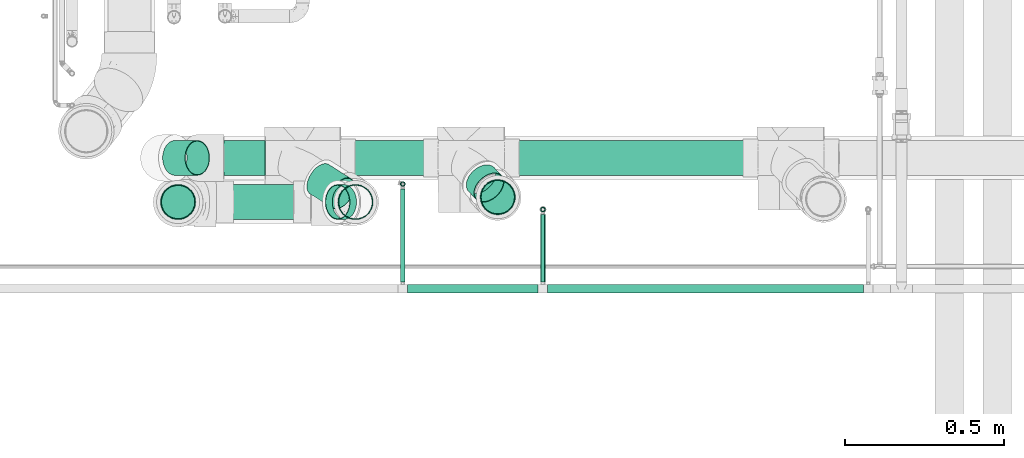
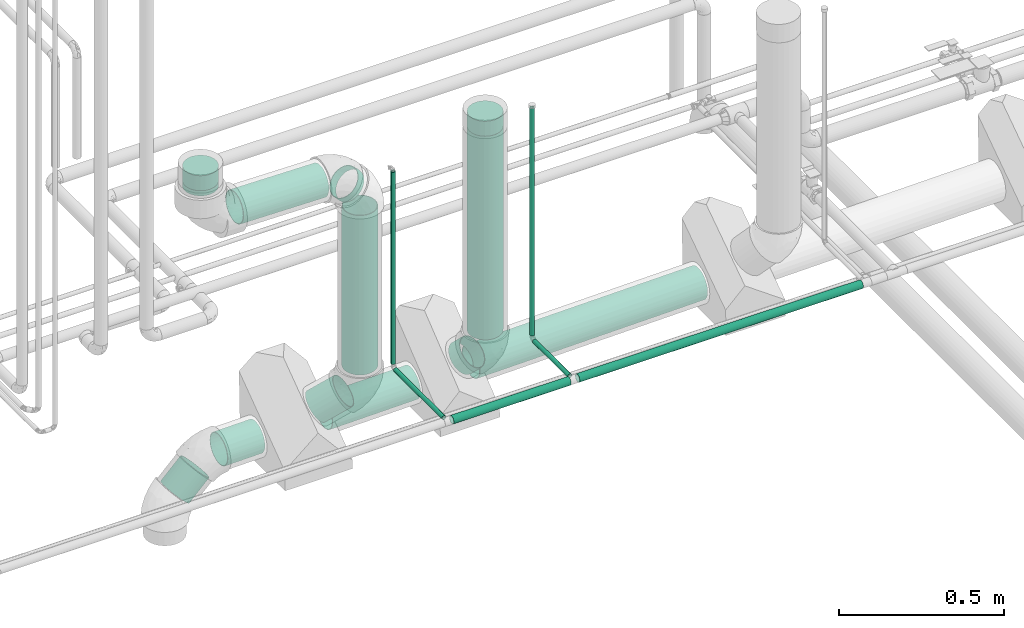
# One storey, part 56 of 156: 17 flow segments, 2 flow fittings.
"""IFC2X3 building model written with IfcOpenShell, lengths in millimetres."""

from ifc_helpers import new_model, entity, si_unit, converted_unit, derived_unit, direction, frame, origin_with_axes, origin_2d_with_axis, place, context, subcontext, project, spatial, hollow_circle, extrude, open_shell, surface_model, source, transform, mapped, type_object, element, save


model = new_model("IFC2X3")

# Units and contexts
model_context = context("Model", 3, precision=0.01, world=frame((0.0, 4.29681676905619e-09, 0.0)), true_north=direction((4.01073788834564e-13, 1.0)))
plan_context = context("Plan", 3, precision=0.01, world=frame((0.0, 4.29681676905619e-09, 0.0)), true_north=direction((4.01073788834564e-13, 1.0)))
body_context = subcontext(model_context, "Body", "Model", "MODEL_VIEW")
ifc_project = project(units=[converted_unit("PLANEANGLEUNIT", "DEGREE", entity("IfcPositiveLengthMeasure", 0.0174532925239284), si_unit("PLANEANGLEUNIT", "RADIAN"), dimensions=[0, 0, 0, 0, 0, 0, 0]), si_unit("AREAUNIT", "SQUARE_METRE"), si_unit("LENGTHUNIT", "METRE", prefix="MILLI"), si_unit("MASSUNIT", "GRAM", prefix="KILO"), si_unit("POWERUNIT", "WATT"), si_unit("PRESSUREUNIT", "PASCAL", prefix="KILO"), si_unit("FORCEUNIT", "NEWTON", prefix="KILO"), si_unit("ELECTRICVOLTAGEUNIT", "VOLT"), si_unit("ELECTRICCURRENTUNIT", "AMPERE"), si_unit("THERMODYNAMICTEMPERATUREUNIT", "DEGREE_CELSIUS"), si_unit("TIMEUNIT", "SECOND"), si_unit("VOLUMEUNIT", "CUBIC_METRE"), derived_unit("LINEARVELOCITYUNIT", [(si_unit("LENGTHUNIT", "METRE"), 1), (si_unit("TIMEUNIT", "SECOND"), -1)]), derived_unit("VOLUMETRICFLOWRATEUNIT", [(si_unit("VOLUMEUNIT", "CUBIC_METRE"), 1), (si_unit("TIMEUNIT", "SECOND"), -1)]), derived_unit("THERMALTRANSMITTANCEUNIT", [(si_unit("POWERUNIT", "WATT"), 1), (si_unit("THERMODYNAMICTEMPERATUREUNIT", "KELVIN"), -1), (si_unit("AREAUNIT", "SQUARE_METRE"), -1)]), derived_unit("SOUNDPRESSUREUNIT", [(si_unit("PRESSUREUNIT", "PASCAL"), 1)])], contexts=[model_context, plan_context])

# Site, building, storey
site_placement = place(None, frame((0.0, -4.29681676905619e-09, 0.0), z_axis=(0.0, 0.0, 1.0), x_axis=(1.0, 0.0, 0.0)))
site = spatial("IfcSite", under=ifc_project, at=site_placement, CompositionType="ELEMENT")
building_placement = place(site_placement, frame((0.0, 4.29681676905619e-09, 0.0), z_axis=(0.0, 0.0, 1.0), x_axis=(1.0, 0.0, 0.0)))
building = spatial("IfcBuilding", under=site, at=building_placement, Name="mc-building", CompositionType="ELEMENT")
storey_placement = place(building_placement, frame((0.0, 0.0, 205200.0), z_axis=(0.0, 0.0, 1.0), x_axis=(1.0, 0.0, 0.0)))
storey = spatial("IfcBuildingStorey", under=building, at=storey_placement, Name="Nivå D + 1,2 m", CompositionType="ELEMENT", Elevation=205200.0)

# Flow fittings
pipe_fitting_type = type_object("IfcPipeFittingType", Name="magi_pipe_fe_plug_001", PredefinedType="OBSTRUCTION")
shared_shape_1 = source(origin_with_axes(), body_context, "Body", "SurfaceModel", [
    surface_model("IfcShellBasedSurfaceModel", [(0.0, 27.5, -47.63139), (0.0, 14.23505, -53.12592), (0.0, 0.0, -55.0), (0.0, -38.89087, -38.89087), (0.0, 47.63139, -27.5), (0.0, 38.89087, -38.89087), (0.0, 53.12592, -14.23505), (0.0, -47.63139, -27.5), (0.0, -14.23505, -53.12592), (0.0, -27.5, -47.63139), (0.0, -53.12592, -14.23505), (0.0, -55.0, 0.0), (0.0, 55.0, 0.0), (0.0, 47.63139, 27.5), (0.0, 53.12592, 14.23505), (0.0, 27.5, 47.63139), (0.0, -38.89087, 38.89087), (0.0, 38.89087, 38.89087), (0.0, 14.23505, 53.12592), (0.0, 0.0, 55.0), (0.0, -47.63139, 27.5), (0.0, -53.12592, 14.23505), (0.0, -14.23505, 53.12592), (0.0, -27.5, 47.63139), (55.0, 0.0, -55.0), (55.0, 14.23505, -53.12592), (55.0, 27.5, -47.63139), (55.0, -38.89087, -38.89087), (55.0, 47.63139, -27.5), (55.0, 38.89087, -38.89087), (55.0, -53.12592, 14.23505), (55.0, -27.5, -47.63139), (55.0, -14.23505, -53.12592), (55.0, -47.63139, -27.5), (55.0, -55.0, 0.0), (55.0, -53.12592, -14.23505), (55.0, 53.12592, -14.23505), (55.0, 55.0, 0.0), (55.0, 53.12592, 14.23505), (55.0, 47.63139, 27.5), (55.0, -38.89087, 38.89087), (55.0, 27.5, 47.63139), (55.0, 38.89087, 38.89087), (55.0, 0.0, 55.0), (55.0, 14.23505, 53.12592), (55.0, -47.63139, 27.5), (55.0, -27.5, 47.63139), (55.0, -14.23505, 53.12592)], [open_shell([[[0, 1, 2]], [[0, 2, 3]], [[4, 0, 3]], [[5, 0, 4]], [[6, 4, 7]], [[8, 9, 2]], [[9, 3, 2]], [[10, 11, 7]], [[4, 3, 7]], [[6, 7, 11]], [[11, 12, 6]], [[13, 14, 12]], [[15, 13, 12]], [[16, 15, 12]], [[17, 13, 15]], [[18, 15, 19]], [[20, 16, 21]], [[21, 16, 11]], [[22, 19, 23]], [[16, 23, 19]], [[16, 19, 15]], [[12, 11, 16]], [[24, 25, 26]], [[27, 24, 26]], [[27, 26, 28]], [[28, 26, 29]], [[28, 30, 27]], [[24, 31, 32]], [[24, 27, 31]], [[33, 34, 35]], [[34, 33, 27]], [[27, 30, 34]], [[28, 36, 30]], [[37, 38, 39]], [[40, 37, 39]], [[40, 39, 41]], [[41, 39, 42]], [[43, 41, 44]], [[30, 40, 45]], [[30, 37, 40]], [[46, 43, 47]], [[43, 46, 40]], [[41, 43, 40]], [[37, 30, 36]], [[11, 34, 30]], [[21, 30, 45]], [[23, 40, 46]], [[22, 46, 47]], [[45, 40, 16]], [[45, 20, 21]], [[21, 11, 30]], [[16, 40, 23]], [[23, 46, 22]], [[47, 19, 22]], [[16, 20, 45]], [[47, 43, 19]], [[15, 44, 41]], [[42, 17, 41]], [[14, 39, 38]], [[42, 39, 13]], [[12, 38, 37]], [[44, 18, 43]], [[44, 15, 18]], [[43, 18, 19]], [[41, 17, 15]], [[42, 13, 17]], [[14, 13, 39]], [[38, 12, 14]], [[36, 12, 37]], [[28, 6, 36]], [[29, 26, 5]], [[28, 29, 4]], [[1, 26, 25]], [[28, 4, 6]], [[6, 12, 36]], [[0, 5, 26]], [[2, 1, 24]], [[5, 4, 29]], [[26, 1, 0]], [[1, 25, 24]], [[9, 32, 31]], [[27, 3, 31]], [[10, 33, 35]], [[27, 33, 7]], [[11, 35, 34]], [[32, 8, 24]], [[32, 9, 8]], [[24, 8, 2]], [[31, 3, 9]], [[27, 7, 3]], [[10, 7, 33]], [[35, 11, 10]]])]),
])
for number, where, z_axis, x_axis, name in (
    (1, (325465.90325, 462601.39901, 5130.97503999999), (0.99999999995, -2.58493941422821e-26, -9.9999999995e-06), (9.999999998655e-06, 1.29999999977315e-05, 0.9999999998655), "magi_pipe_fe_plug_001"),
    (2, (324461.67326, 462586.08797, 5290.49747), (0.0, 1.0, 0.0), (0.0, 0.0, 1.0), "magi_pipe_fe_plug_001"),
):
    element("IfcFlowFitting", number, at=place(storey_placement, frame(where, z_axis=z_axis, x_axis=x_axis)), inside=storey, type_object=pipe_fitting_type, Name=name, context=body_context, shape_type="MappedRepresentation", body=[
        mapped(shared_shape_1, transform((0.0, 0.0, 0.0), scale=1.0)),
    ])

# Flow segments
pipe_segment_type_1 = type_object("IfcPipeSegmentType", Name="MA", PredefinedType="RIGIDSEGMENT")
shared_shape_2 = source(origin_with_axes(), body_context, "Body", "SweptSolid", [
    extrude(hollow_circle(Radius=55.0, WallThickness=2.0, at=origin_2d_with_axis()), frame((0.0, 0.0, 0.0), z_axis=(1.0, 0.0, 0.0), x_axis=(0.0, 1.0, 0.0)), (0.0, 0.0, 1.0), 99.0),
])
flow_segment_1_placement = place(storey_placement, frame((324452.0866, 462724.75736, 4056.94635000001), z_axis=(-0.707106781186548, 0.0, 0.707106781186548), x_axis=(0.707106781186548, 0.0, 0.707106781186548)))
element("IfcFlowSegment", 3, at=flow_segment_1_placement, inside=storey, type_object=pipe_segment_type_1, Name="MA", context=body_context, shape_type="MappedRepresentation", body=[
    mapped(shared_shape_2, transform((0.0, 0.0, 0.0), scale=1.0)),
])
shared_shape_3 = source(origin_with_axes(), body_context, "Body", "SweptSolid", [
    extrude(hollow_circle(Radius=55.0, WallThickness=2.0, at=origin_2d_with_axis()), frame((0.0, 0.0, 0.0), z_axis=(1.0, 0.0, 0.0), x_axis=(0.0, 1.0, 0.0)), (0.0, 0.0, 1.0), 752.9),
])
flow_segment_2_placement = place(storey_placement, frame((325465.89291, 462601.38941, 4378.03833000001), z_axis=(0.680367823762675, -0.732870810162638, 2.17099943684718e-09), x_axis=(1.3999999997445e-05, 1.29999999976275e-05, 0.9999999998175)))
element("IfcFlowSegment", 4, at=flow_segment_2_placement, inside=storey, type_object=pipe_segment_type_1, Name="MA", context=body_context, shape_type="MappedRepresentation", body=[
    mapped(shared_shape_3, transform((0.0, 0.0, 0.0), scale=1.0)),
])
shared_shape_4 = source(origin_with_axes(), body_context, "Body", "SweptSolid", [
    extrude(hollow_circle(Radius=55.0, WallThickness=2.0, at=origin_2d_with_axis()), frame((0.0, 0.0, 0.0), z_axis=(1.0, 0.0, 0.0), x_axis=(0.0, 1.0, 0.0)), (0.0, 0.0, 1.0), 47.0),
])
flow_segment_3_placement = place(storey_placement, frame((325438.05694, 462631.37343, 4287.33501000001), z_axis=(0.860099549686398, 0.335303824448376, -0.384447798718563), x_axis=(-0.510013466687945, 0.549370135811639, -0.661875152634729)))
element("IfcFlowSegment", 5, at=flow_segment_3_placement, inside=storey, type_object=pipe_segment_type_1, Name="MA", context=body_context, shape_type="MappedRepresentation", body=[
    mapped(shared_shape_4, transform((0.0, 0.0, 0.0), scale=1.0)),
])
shared_shape_5 = source(origin_with_axes(), body_context, "Body", "SweptSolid", [
    extrude(hollow_circle(Radius=55.0, WallThickness=2.0, at=origin_2d_with_axis()), frame((0.0, 0.0, 0.0), z_axis=(1.0, 0.0, 0.0), x_axis=(0.0, 1.0, 0.0)), (0.0, 0.0, 1.0), 307.3),
])
flow_segment_4_placement = place(storey_placement, frame((324972.19577, 462724.75736, 4168.50766), z_axis=(-0.0166640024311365, 0.0, 0.999861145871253), x_axis=(0.999861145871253, 0.0, 0.0166640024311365)))
element("IfcFlowSegment", 6, at=flow_segment_4_placement, inside=storey, type_object=pipe_segment_type_1, Name="MA", context=body_context, shape_type="MappedRepresentation", body=[
    mapped(shared_shape_5, transform((0.0, 0.0, 0.0), scale=1.0)),
])
shared_shape_6 = source(origin_with_axes(), body_context, "Body", "SweptSolid", [
    extrude(hollow_circle(Radius=55.0, WallThickness=2.0, at=origin_2d_with_axis()), frame((0.0, 0.0, 0.0), z_axis=(1.0, 0.0, 0.0), x_axis=(0.0, 1.0, 0.0)), (0.0, 0.0, 1.0), 589.8),
])
flow_segment_5_placement = place(storey_placement, frame((325018.86668, 462586.08797, 4413.68244), z_axis=(0.844860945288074, -0.534985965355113, 0.0), x_axis=(0.0, 0.0, 1.0)))
element("IfcFlowSegment", 7, at=flow_segment_5_placement, inside=storey, type_object=pipe_segment_type_1, Name="MA", context=body_context, shape_type="MappedRepresentation", body=[
    mapped(shared_shape_6, transform((0.0, 0.0, 0.0), scale=1.0)),
])
shared_shape_7 = source(origin_with_axes(), body_context, "Body", "SweptSolid", [
    extrude(hollow_circle(Radius=55.0, WallThickness=2.0, at=origin_2d_with_axis()), frame((0.0, 0.0, 0.0), z_axis=(1.0, 0.0, 0.0), x_axis=(0.0, 1.0, 0.0)), (0.0, 0.0, 1.0), 101.9),
])
flow_segment_6_placement = place(storey_placement, frame((324976.22439, 462613.09008, 4315.36215), z_axis=(0.72705601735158, 0.421509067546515, -0.541959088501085), x_axis=(-0.686504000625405, 0.434711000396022, -0.582871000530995)))
element("IfcFlowSegment", 8, at=flow_segment_6_placement, inside=storey, type_object=pipe_segment_type_1, Name="MA", context=body_context, shape_type="MappedRepresentation", body=[
    mapped(shared_shape_7, transform((0.0, 0.0, 0.0), scale=1.0)),
])
shared_shape_8 = source(origin_with_axes(), body_context, "Body", "SweptSolid", [
    extrude(hollow_circle(Radius=55.0, WallThickness=2.0, at=origin_2d_with_axis()), frame((0.0, 0.0, 0.0), z_axis=(1.0, 0.0, 0.0), x_axis=(0.0, 1.0, 0.0)), (0.0, 0.0, 1.0), 129.8),
])
flow_segment_7_placement = place(storey_placement, frame((324605.65923, 462724.75736, 4162.39872), z_axis=(-0.0166640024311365, 0.0, 0.999861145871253), x_axis=(0.999861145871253, 0.0, 0.0166640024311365)))
element("IfcFlowSegment", 9, at=flow_segment_7_placement, inside=storey, type_object=pipe_segment_type_1, Name="MA", context=body_context, shape_type="MappedRepresentation", body=[
    mapped(shared_shape_8, transform((0.0, 0.0, 0.0), scale=1.0)),
])
shared_shape_9 = source(origin_with_axes(), body_context, "Body", "SweptSolid", [
    extrude(hollow_circle(Radius=55.0, WallThickness=2.0, at=origin_2d_with_axis()), frame((0.0, 0.0, 0.0), z_axis=(1.0, 0.0, 0.0), x_axis=(0.0, 1.0, 0.0)), (0.0, 0.0, 1.0), 29.3),
])
flow_segment_8_placement = place(storey_placement, frame((324983.4266, 462586.08797, 5089.02851), z_axis=(0.707106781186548, 0.0, 0.707106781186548), x_axis=(-0.707106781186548, 0.0, 0.707106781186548)))
element("IfcFlowSegment", 10, at=flow_segment_8_placement, inside=storey, type_object=pipe_segment_type_1, Name="MA", context=body_context, shape_type="MappedRepresentation", body=[
    mapped(shared_shape_9, transform((0.0, 0.0, 0.0), scale=1.0)),
])
shared_shape_10 = source(origin_with_axes(), body_context, "Body", "SweptSolid", [
    extrude(hollow_circle(Radius=55.0, WallThickness=2.0, at=origin_2d_with_axis()), frame((0.0, 0.0, 0.0), z_axis=(1.0, 0.0, 0.0), x_axis=(0.0, 1.0, 0.0)), (0.0, 0.0, 1.0), 796.4),
])
flow_segment_9_placement = place(storey_placement, frame((325487.37227, 462724.75736, 4177.09393999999), z_axis=(-0.0166640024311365, 0.0, 0.999861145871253), x_axis=(0.999861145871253, 0.0, 0.0166640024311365)))
element("IfcFlowSegment", 11, at=flow_segment_9_placement, inside=storey, type_object=pipe_segment_type_1, Name="MA", context=body_context, shape_type="MappedRepresentation", body=[
    mapped(shared_shape_10, transform((0.0, 0.0, 0.0), scale=1.0)),
])
pipe_segment_type_2 = type_object("IfcPipeSegmentType", Name="Kobberrør", PredefinedType="RIGIDSEGMENT")
shared_shape_11 = source(origin_with_axes(), body_context, "Body", "SweptSolid", [
    extrude(hollow_circle(Radius=7.5, WallThickness=2.0, at=origin_2d_with_axis()), frame((0.0, 0.0, 0.0), z_axis=(1.0, 0.0, 0.0), x_axis=(0.0, 1.0, 0.0)), (0.0, 0.0, 1.0), 293.0),
])
flow_segment_10_placement = place(storey_placement, frame((325167.58098, 462334.63355, 4318.0), z_axis=(0.0, 0.0, 1.0), x_axis=(0.0, 1.0, 0.0)))
element("IfcFlowSegment", 12, at=flow_segment_10_placement, inside=storey, type_object=pipe_segment_type_2, Name="Kobberrør", context=body_context, shape_type="MappedRepresentation", body=[
    mapped(shared_shape_11, transform((0.0, 0.0, 0.0), scale=1.0)),
])
shared_shape_12 = source(origin_with_axes(), body_context, "Body", "SweptSolid", [
    extrude(hollow_circle(Radius=7.5, WallThickness=2.0, at=origin_2d_with_axis()), frame((0.0, 0.0, 0.0), z_axis=(1.0, 0.0, 0.0), x_axis=(0.0, 1.0, 0.0)), (0.0, 0.0, 1.0), 213.0),
])
flow_segment_11_placement = place(storey_placement, frame((325607.72814, 462334.63355, 4318.0), z_axis=(0.0, 0.0, 1.0), x_axis=(0.0, 1.0, 0.0)))
element("IfcFlowSegment", 13, at=flow_segment_11_placement, inside=storey, type_object=pipe_segment_type_2, Name="Kobberrør", context=body_context, shape_type="MappedRepresentation", body=[
    mapped(shared_shape_12, transform((0.0, 0.0, 0.0), scale=1.0)),
])
shared_shape_13 = source(origin_with_axes(), body_context, "Body", "SweptSolid", [
    extrude(hollow_circle(Radius=14.0, WallThickness=2.0, at=origin_2d_with_axis()), frame((0.0, 0.0, 0.0), z_axis=(1.0, 0.0, 0.0), x_axis=(0.0, 1.0, 0.0)), (0.0, 0.0, 1.0), 410.1),
])
flow_segment_12_placement = place(storey_placement, frame((325182.58098, 462313.63355, 4318.0), z_axis=(0.0, 0.0, 1.0), x_axis=(1.0, 0.0, 0.0)))
element("IfcFlowSegment", 14, at=flow_segment_12_placement, inside=storey, type_object=pipe_segment_type_2, Name="Kobberrør", context=body_context, shape_type="MappedRepresentation", body=[
    mapped(shared_shape_13, transform((0.0, 0.0, 0.0), scale=1.0)),
])
shared_shape_14 = source(origin_with_axes(), body_context, "Body", "SweptSolid", [
    extrude(hollow_circle(Radius=14.0, WallThickness=2.0, at=origin_2d_with_axis()), frame((0.0, 0.0, 0.0), z_axis=(1.0, 0.0, 0.0), x_axis=(0.0, 1.0, 0.0)), (0.0, 0.0, 1.0), 991.8),
])
flow_segment_13_placement = place(storey_placement, frame((325622.72814, 462313.63355, 4318.0), z_axis=(0.0, 0.0, 1.0), x_axis=(1.0, 0.0, 0.0)))
element("IfcFlowSegment", 15, at=flow_segment_13_placement, inside=storey, type_object=pipe_segment_type_2, Name="Kobberrør", context=body_context, shape_type="MappedRepresentation", body=[
    mapped(shared_shape_14, transform((0.0, 0.0, 0.0), scale=1.0)),
])
shared_shape_15 = source(origin_with_axes(), body_context, "Body", "SweptSolid", [
    extrude(hollow_circle(Radius=55.0, WallThickness=2.0, at=origin_2d_with_axis()), frame((0.0, 0.0, 0.0), z_axis=(1.0, 0.0, 0.0), x_axis=(0.0, 1.0, 0.0)), (0.0, 0.0, 1.0), 298.5),
])
flow_segment_14_placement = place(storey_placement, frame((324879.13368, 462586.08797, 5145.20117000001), z_axis=(0.0166640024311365, 0.0, 0.999861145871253), x_axis=(-0.999861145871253, 0.0, 0.0166640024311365)))
element("IfcFlowSegment", 16, at=flow_segment_14_placement, inside=storey, type_object=pipe_segment_type_1, Name="MA", context=body_context, shape_type="MappedRepresentation", body=[
    mapped(shared_shape_15, transform((0.0, 0.0, 0.0), scale=1.0)),
])
shared_shape_16 = source(origin_with_axes(), body_context, "Body", "SweptSolid", [
    extrude(hollow_circle(Radius=55.0, WallThickness=2.0, at=origin_2d_with_axis()), frame((0.0, 0.0, 0.0), z_axis=(1.0, 0.0, 0.0), x_axis=(0.0, 1.0, 0.0)), (0.0, 0.0, 1.0), 19.3),
])
flow_segment_15_placement = place(storey_placement, frame((324461.67326, 462586.08797, 5271.15898000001), z_axis=(0.0, 1.0, 0.0), x_axis=(0.0, 0.0, 1.0)))
element("IfcFlowSegment", 17, at=flow_segment_15_placement, inside=storey, type_object=pipe_segment_type_1, Name="MA", context=body_context, shape_type="MappedRepresentation", body=[
    mapped(shared_shape_16, transform((0.0, 0.0, 0.0), scale=1.0)),
])
shared_shape_17 = source(origin_with_axes(), body_context, "Body", "SweptSolid", [
    extrude(hollow_circle(Radius=7.5, WallThickness=2.0, at=origin_2d_with_axis()), frame((0.0, 0.0, 0.0), z_axis=(1.0, 0.0, 0.0), x_axis=(0.0, 1.0, 0.0)), (0.0, 0.0, 1.0), 710.8),
])
flow_segment_16_placement = place(storey_placement, frame((325167.58098, 462642.63355, 4333.0), z_axis=(0.0, -1.0, 0.0), x_axis=(0.0, 0.0, 1.0)))
element("IfcFlowSegment", 18, at=flow_segment_16_placement, inside=storey, type_object=pipe_segment_type_2, Name="Kobberrør", context=body_context, shape_type="MappedRepresentation", body=[
    mapped(shared_shape_17, transform((0.0, 0.0, 0.0), scale=1.0)),
])
shared_shape_18 = source(origin_with_axes(), body_context, "Body", "SweptSolid", [
    extrude(hollow_circle(Radius=7.5, WallThickness=2.0, at=origin_2d_with_axis()), frame((0.0, 0.0, 0.0), z_axis=(1.0, 0.0, 0.0), x_axis=(0.0, 1.0, 0.0)), (0.0, 0.0, 1.0), 841.0),
])
flow_segment_17_placement = place(storey_placement, frame((325607.72814, 462562.63355, 4333.0), z_axis=(0.0, -1.0, 0.0), x_axis=(0.0, 0.0, 1.0)))
element("IfcFlowSegment", 19, at=flow_segment_17_placement, inside=storey, type_object=pipe_segment_type_2, Name="Kobberrør", context=body_context, shape_type="MappedRepresentation", body=[
    mapped(shared_shape_18, transform((0.0, 0.0, 0.0), scale=1.0)),
])

save(model, "model.ifc")
